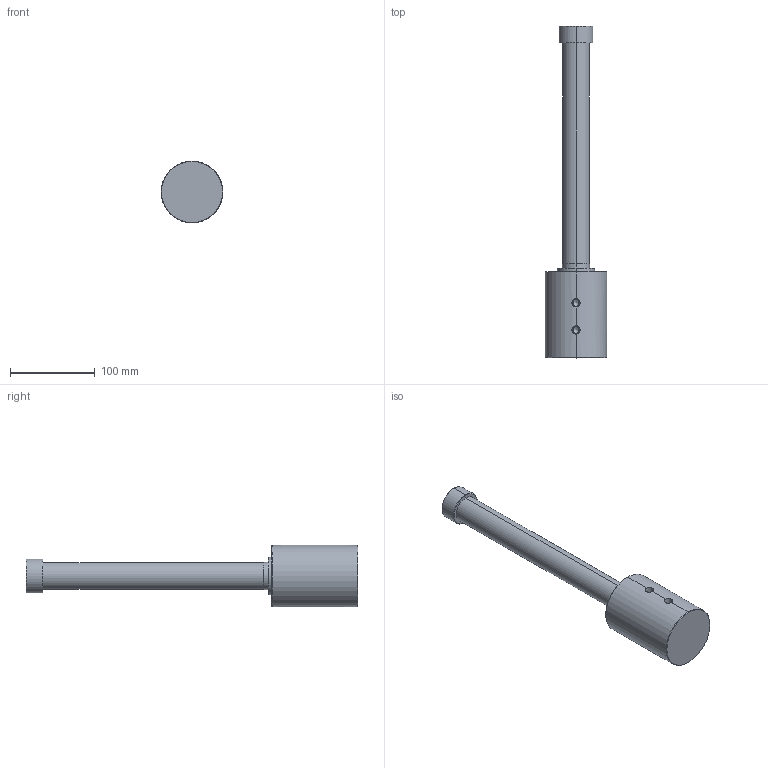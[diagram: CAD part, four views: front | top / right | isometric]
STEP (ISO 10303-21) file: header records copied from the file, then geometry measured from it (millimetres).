
FILE_DESCRIPTION((' '),'2;1');
FILE_NAME( 'TMG-4-400_step.prt.stp', '2024-08-27T14:05:44', (' '), ('--- Datakit www.datakit.com---'), ' Datakit CrossCadWare V2024.1 Dec 21 2023', 'Mastercam 2025', ' ');
FILE_SCHEMA(('AUTOMOTIVE_DESIGN { 1 0 10303 214 1 1 1 1 }'));
Length unit declared in the file: millimetre
Products named in the file (1): TMG-4-400_step
Bounding box: 73 x 392 x 73 mm (x, y, z)
Volume: 654266.2 mm3; surface area: 69628.3 mm2
Topology: 1 solids, 1 shells, 91 faces, 213 edges, 130 vertices
Faces by surface type: cylinder 39, cone 31, plane 21
Entity records: 2727 total; most frequent: CARTESIAN_POINT 626, DIRECTION 467, ORIENTED_EDGE 402, EDGE_CURVE 201, AXIS2_PLACEMENT_3D 193, VERTEX_POINT 130, EDGE_LOOP 109, CIRCLE 101
